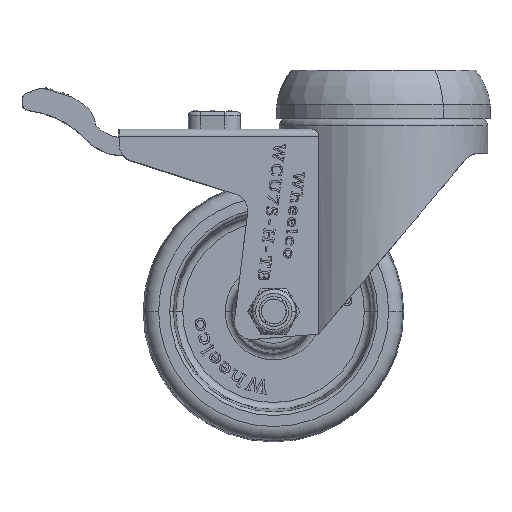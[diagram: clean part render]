
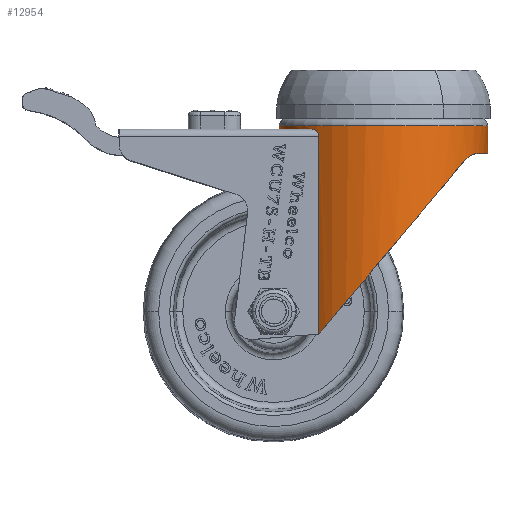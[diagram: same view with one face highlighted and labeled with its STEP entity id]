
A CAD part, top view. The second image highlights one B-rep face of the part: STEP entity #12954.
In plain terms, the highlighted cylindrical face has radius 30 mm (diameter 60 mm), a partial arc.
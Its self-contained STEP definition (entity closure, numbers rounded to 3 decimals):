
#114 = CARTESIAN_POINT ( 'NONE',  ( -23.401, 4.358, 18.773 ) ) ;
#771 = CARTESIAN_POINT ( 'NONE',  ( -23.5, 5., 18.648 ) ) ;
#863 = CARTESIAN_POINT ( 'NONE',  ( -23.5, 66., 18.648 ) ) ;
#1434 = CARTESIAN_POINT ( 'NONE',  ( -18.235, 11.397, -23.828 ) ) ;
#2179 = VERTEX_POINT ( 'NONE', #15864 ) ;
#2533 = DIRECTION ( 'NONE',  ( 0., -1., 0. ) ) ;
#2598 = ORIENTED_EDGE ( 'NONE', *, *, #40667, .T. ) ;
#2738 = EDGE_CURVE ( 'NONE', #41056, #36889, #3615, .T. ) ;
#2878 = EDGE_CURVE ( 'NONE', #33280, #40489, #20018, .T. ) ;
#3139 = VECTOR ( 'NONE', #11562, 1000. ) ;
#3451 = CARTESIAN_POINT ( 'NONE',  ( -23.146, 3.828, 19.087 ) ) ;
#3615 = CIRCLE ( 'NONE', #17842, 30. ) ;
#3669 = CARTESIAN_POINT ( 'NONE',  ( -21.956, 3.039, 20.446 ) ) ;
#3790 = CARTESIAN_POINT ( 'NONE',  ( -23.5, 62., 18.648 ) ) ;
#3890 = CARTESIAN_POINT ( 'NONE',  ( 0., 3., 0. ) ) ;
#4490 =( BOUNDED_CURVE ( )  B_SPLINE_CURVE ( 3, ( #13042, #16377, #19931, #40573 ),
 .UNSPECIFIED., .F., .T. ) 
 B_SPLINE_CURVE_WITH_KNOTS ( ( 4, 4 ),
 ( 0.671, 2.242 ),
 .UNSPECIFIED. ) 
 CURVE ( )  GEOMETRIC_REPRESENTATION_ITEM ( )  RATIONAL_B_SPLINE_CURVE ( ( 1., 0.805, 0.805, 1. ) ) 
 REPRESENTATION_ITEM ( '' )  );
#5441 = CARTESIAN_POINT ( 'NONE',  ( -16.27, 10.469, -25.207 ) ) ;
#6031 = CARTESIAN_POINT ( 'NONE',  ( 0., 10., -30. ) ) ;
#6795 = CARTESIAN_POINT ( 'NONE',  ( -21.732, 3., 20.684 ) ) ;
#7291 = DIRECTION ( 'NONE',  ( 0., 1., 0. ) ) ;
#8262 = ORIENTED_EDGE ( 'NONE', *, *, #36321, .F. ) ;
#9311 = VECTOR ( 'NONE', #27457, 1000. ) ;
#9923 = CARTESIAN_POINT ( 'NONE',  ( 0., 66., -30. ) ) ;
#10038 = LINE ( 'NONE', #28417, #3139 ) ;
#10282 = ORIENTED_EDGE ( 'NONE', *, *, #29771, .F. ) ;
#10742 = AXIS2_PLACEMENT_3D ( 'NONE', #31890, #42172, #35466 ) ;
#10772 = CARTESIAN_POINT ( 'NONE',  ( -23.5, 4.832, 18.648 ) ) ;
#11088 = DIRECTION ( 'NONE',  ( 0., -1., 0. ) ) ;
#11562 = DIRECTION ( 'NONE',  ( 0., -1., 0. ) ) ;
#11892 = CARTESIAN_POINT ( 'NONE',  ( -16.789, 10.647, -24.864 ) ) ;
#12559 = CARTESIAN_POINT ( 'NONE',  ( -12.37, 10., -27.331 ) ) ;
#12954 = ADVANCED_FACE ( 'NONE', ( #32947 ), #42170, .T. ) ;
#13042 = CARTESIAN_POINT ( 'NONE',  ( -18.646, 11.785, -23.501 ) ) ;
#15398 = AXIS2_PLACEMENT_3D ( 'NONE', #21943, #2533, #25273 ) ;
#15475 = AXIS2_PLACEMENT_3D ( 'NONE', #3890, #34980, #21006 ) ;
#15864 = CARTESIAN_POINT ( 'NONE',  ( -23.5, 5., 18.648 ) ) ;
#15914 = EDGE_LOOP ( 'NONE', ( #10282, #8262, #24858, #21426, #33227, #30011, #30486, #2598, #25800 ) ) ;
#16321 = CARTESIAN_POINT ( 'NONE',  ( 0., 2., -30. ) ) ;
#16377 = CARTESIAN_POINT ( 'NONE',  ( -32.414, 24.799, -12.578 ) ) ;
#17842 = AXIS2_PLACEMENT_3D ( 'NONE', #24188, #7291, #27715 ) ;
#18089 = CARTESIAN_POINT ( 'NONE',  ( -21.5, 3., 20.922 ) ) ;
#19931 = CARTESIAN_POINT ( 'NONE',  ( -34.424, 45.599, 4.881 ) ) ;
#20018 = CIRCLE ( 'NONE', #10742, 30. ) ;
#20365 = CARTESIAN_POINT ( 'NONE',  ( -22.387, 3.193, 19.973 ) ) ;
#21006 = DIRECTION ( 'NONE',  ( 0., 0., 1. ) ) ;
#21426 = ORIENTED_EDGE ( 'NONE', *, *, #24972, .F. ) ;
#21943 = CARTESIAN_POINT ( 'NONE',  ( 0., 66., 0. ) ) ;
#22015 = EDGE_CURVE ( 'NONE', #27011, #36486, #4490, .T. ) ;
#22145 = EDGE_CURVE ( 'NONE', #34527, #2179, #39217, .T. ) ;
#23906 = CARTESIAN_POINT ( 'NONE',  ( -21.5, 3., 20.922 ) ) ;
#24188 = CARTESIAN_POINT ( 'NONE',  ( 0., 10., 0. ) ) ;
#24858 = ORIENTED_EDGE ( 'NONE', *, *, #22145, .T. ) ;
#24972 = EDGE_CURVE ( 'NONE', #36486, #2179, #41763, .T. ) ;
#25273 = DIRECTION ( 'NONE',  ( 0., 0., -1. ) ) ;
#25434 = CARTESIAN_POINT ( 'NONE',  ( -17.779, 11.102, -24.171 ) ) ;
#25800 = ORIENTED_EDGE ( 'NONE', *, *, #2878, .T. ) ;
#25895 = CARTESIAN_POINT ( 'NONE',  ( -12.958, 10., -27.065 ) ) ;
#26112 = CARTESIAN_POINT ( 'NONE',  ( -18.646, 11.785, -23.501 ) ) ;
#27011 = VERTEX_POINT ( 'NONE', #38240 ) ;
#27457 = DIRECTION ( 'NONE',  ( 0., -1., 0. ) ) ;
#27662 = LINE ( 'NONE', #9923, #9311 ) ;
#27715 = DIRECTION ( 'NONE',  ( 0., 0., 1. ) ) ;
#28417 = CARTESIAN_POINT ( 'NONE',  ( 0., 66., 30. ) ) ;
#28750 = CARTESIAN_POINT ( 'NONE',  ( -14.656, 10.124, -26.184 ) ) ;
#29186 = CARTESIAN_POINT ( 'NONE',  ( -17.044, 10.749, -24.69 ) ) ;
#29771 = EDGE_CURVE ( 'NONE', #41294, #40489, #10038, .T. ) ;
#30011 = ORIENTED_EDGE ( 'NONE', *, *, #42276, .F. ) ;
#30486 = ORIENTED_EDGE ( 'NONE', *, *, #2738, .F. ) ;
#30514 = CARTESIAN_POINT ( 'NONE',  ( -23.345, 4.215, 18.842 ) ) ;
#31006 = VECTOR ( 'NONE', #11088, 1000. ) ;
#31729 = CARTESIAN_POINT ( 'NONE',  ( 0., 3., 30. ) ) ;
#31837 = CARTESIAN_POINT ( 'NONE',  ( -15.205, 10.206, -25.869 ) ) ;
#31890 = CARTESIAN_POINT ( 'NONE',  ( 0., 2., 0. ) ) ;
#32947 = FACE_OUTER_BOUND ( 'NONE', #15914, .T. ) ;
#33189 = CIRCLE ( 'NONE', #15475, 30. ) ;
#33212 = CARTESIAN_POINT ( 'NONE',  ( -22.596, 3.309, 19.736 ) ) ;
#33227 = ORIENTED_EDGE ( 'NONE', *, *, #22015, .F. ) ;
#33280 = VERTEX_POINT ( 'NONE', #16321 ) ;
#33869 = CARTESIAN_POINT ( 'NONE',  ( -22.973, 3.625, 19.296 ) ) ;
#34519 = CARTESIAN_POINT ( 'NONE',  ( -23.478, 4.666, 18.675 ) ) ;
#34527 = VERTEX_POINT ( 'NONE', #18089 ) ;
#34980 = DIRECTION ( 'NONE',  ( 0., 1., 0. ) ) ;
#35466 = DIRECTION ( 'NONE',  ( 0., 0., 1. ) ) ;
#35856 = CARTESIAN_POINT ( 'NONE',  ( -16.006, 10.395, -25.375 ) ) ;
#36321 = EDGE_CURVE ( 'NONE', #34527, #41294, #33189, .T. ) ;
#36486 = VERTEX_POINT ( 'NONE', #3790 ) ;
#36584 = CARTESIAN_POINT ( 'NONE',  ( -12.37, 10., -27.331 ) ) ;
#36889 = VERTEX_POINT ( 'NONE', #36584 ) ;
#38109 = B_SPLINE_CURVE_WITH_KNOTS ( 'NONE', 3,
 ( #12559, #25895, #39196, #28750, #31837, #35856, #5441, #11892, #29186, #25434, #1434, #26112 ),
 .UNSPECIFIED., .F., .F.,
 ( 4, 2, 2, 2, 2, 4 ),
 ( 0., 0.002, 0.004, 0.005, 0.006, 0.008 ),
 .UNSPECIFIED. ) ;
#38240 = CARTESIAN_POINT ( 'NONE',  ( -18.646, 11.785, -23.501 ) ) ;
#39196 = CARTESIAN_POINT ( 'NONE',  ( -13.533, 10.021, -26.782 ) ) ;
#39217 = B_SPLINE_CURVE_WITH_KNOTS ( 'NONE', 3,
 ( #23906, #6795, #3669, #20365, #33212, #33869, #3451, #30514, #114, #34519, #10772, #771 ),
 .UNSPECIFIED., .F., .F.,
 ( 4, 2, 2, 2, 2, 4 ),
 ( 0., 0.001, 0.002, 0.003, 0.003, 0.004 ),
 .UNSPECIFIED. ) ;
#40144 = CARTESIAN_POINT ( 'NONE',  ( 0., 2., 30. ) ) ;
#40489 = VERTEX_POINT ( 'NONE', #40144 ) ;
#40573 = CARTESIAN_POINT ( 'NONE',  ( -23.5, 62., 18.648 ) ) ;
#40667 = EDGE_CURVE ( 'NONE', #41056, #33280, #27662, .T. ) ;
#41056 = VERTEX_POINT ( 'NONE', #6031 ) ;
#41294 = VERTEX_POINT ( 'NONE', #31729 ) ;
#41763 = LINE ( 'NONE', #863, #31006 ) ;
#42170 = CYLINDRICAL_SURFACE ( 'NONE', #15398, 30. ) ;
#42172 = DIRECTION ( 'NONE',  ( 0., 1., 0. ) ) ;
#42276 = EDGE_CURVE ( 'NONE', #36889, #27011, #38109, .T. ) ;
